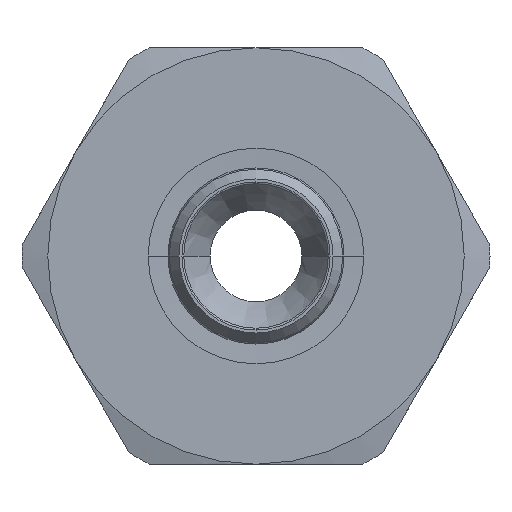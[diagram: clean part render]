
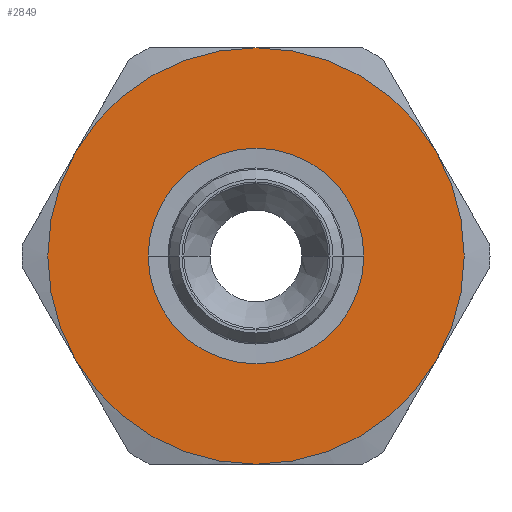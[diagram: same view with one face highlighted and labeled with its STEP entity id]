
A CAD part, left-side view. The second image highlights one B-rep face of the part: STEP entity #2849.
In plain terms, the highlighted planar face has unit normal (-1, 0, 0) as drawn and (0, 0, 1) by its records, which use the part's own axes.
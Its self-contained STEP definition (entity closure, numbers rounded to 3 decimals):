
#1176=CARTESIAN_POINT('',(0.,-12.95,6.));
#1177=VERTEX_POINT('',#1176);
#1193=CARTESIAN_POINT('',(0.,12.95,6.0));
#1194=VERTEX_POINT('',#1193);
#1201=CARTESIAN_POINT('',(0.,0.,6.0));
#1202=DIRECTION('',(0.0,0.0,-1.0));
#1203=DIRECTION('',(0.0,-1.0,0.0));
#1204=AXIS2_PLACEMENT_3D('',#1201,#1202,#1203);
#1205=CIRCLE('',#1204,12.95);
#1206=EDGE_CURVE('',#1177,#1194,#1205,.T.);
#1663=CARTESIAN_POINT('',(0.,0.,6.0));
#1664=DIRECTION('',(0.0,0.0,-1.0));
#1665=DIRECTION('',(0.0,-1.0,0.0));
#1666=AXIS2_PLACEMENT_3D('',#1663,#1664,#1665);
#1667=CIRCLE('',#1666,12.95);
#1668=EDGE_CURVE('',#1194,#1177,#1667,.T.);
#2222=CARTESIAN_POINT('',(12.5,-21.651,6.));
#2223=VERTEX_POINT('',#2222);
#2237=CARTESIAN_POINT('',(-12.5,-21.651,6.));
#2238=VERTEX_POINT('',#2237);
#2239=CARTESIAN_POINT('',(0.,0.0,6.0));
#2240=DIRECTION('',(0.0,0.0,1.0));
#2241=DIRECTION('',(1.0,0.0,0.0));
#2242=AXIS2_PLACEMENT_3D('',#2239,#2240,#2241);
#2243=CIRCLE('',#2242,25.);
#2244=EDGE_CURVE('',#2238,#2223,#2243,.T.);
#2322=CARTESIAN_POINT('',(-25.0,0.,6.));
#2323=VERTEX_POINT('',#2322);
#2324=CARTESIAN_POINT('',(0.,0.0,6.0));
#2325=DIRECTION('',(0.0,0.0,1.0));
#2326=DIRECTION('',(1.0,0.0,0.0));
#2327=AXIS2_PLACEMENT_3D('',#2324,#2325,#2326);
#2328=CIRCLE('',#2327,25.);
#2329=EDGE_CURVE('',#2323,#2238,#2328,.T.);
#2406=CARTESIAN_POINT('',(-12.5,21.651,6.));
#2407=VERTEX_POINT('',#2406);
#2408=CARTESIAN_POINT('',(0.,0.0,6.0));
#2409=DIRECTION('',(0.0,0.0,1.0));
#2410=DIRECTION('',(1.0,0.0,0.0));
#2411=AXIS2_PLACEMENT_3D('',#2408,#2409,#2410);
#2412=CIRCLE('',#2411,25.);
#2413=EDGE_CURVE('',#2407,#2323,#2412,.T.);
#2490=CARTESIAN_POINT('',(12.5,21.651,6.));
#2491=VERTEX_POINT('',#2490);
#2492=CARTESIAN_POINT('',(0.,0.0,6.0));
#2493=DIRECTION('',(0.0,0.0,1.0));
#2494=DIRECTION('',(1.0,0.0,0.0));
#2495=AXIS2_PLACEMENT_3D('',#2492,#2493,#2494);
#2496=CIRCLE('',#2495,25.);
#2497=EDGE_CURVE('',#2491,#2407,#2496,.T.);
#2575=CARTESIAN_POINT('',(25.0,0.0,6.));
#2576=VERTEX_POINT('',#2575);
#2577=CARTESIAN_POINT('',(0.,0.0,6.0));
#2578=DIRECTION('',(0.0,0.0,1.0));
#2579=DIRECTION('',(1.0,0.0,0.0));
#2580=AXIS2_PLACEMENT_3D('',#2577,#2578,#2579);
#2581=CIRCLE('',#2580,25.);
#2582=EDGE_CURVE('',#2576,#2491,#2581,.T.);
#2659=CARTESIAN_POINT('',(0.,0.0,6.0));
#2660=DIRECTION('',(0.0,0.0,1.0));
#2661=DIRECTION('',(1.0,0.0,0.0));
#2662=AXIS2_PLACEMENT_3D('',#2659,#2660,#2661);
#2663=CIRCLE('',#2662,25.);
#2664=EDGE_CURVE('',#2223,#2576,#2663,.T.);
#2832=CARTESIAN_POINT('',(0.,0.,6.0));
#2833=DIRECTION('',(0.0,0.0,1.0));
#2834=DIRECTION('',(1.0,0.0,0.0));
#2835=AXIS2_PLACEMENT_3D('',#2832,#2833,#2834);
#2836=PLANE('',#2835);
#2837=ORIENTED_EDGE('',*,*,#2664,.T.);
#2838=ORIENTED_EDGE('',*,*,#2582,.T.);
#2839=ORIENTED_EDGE('',*,*,#2497,.T.);
#2840=ORIENTED_EDGE('',*,*,#2413,.T.);
#2841=ORIENTED_EDGE('',*,*,#2329,.T.);
#2842=ORIENTED_EDGE('',*,*,#2244,.T.);
#2843=EDGE_LOOP('',(#2837,#2838,#2839,#2840,#2841,#2842));
#2844=FACE_OUTER_BOUND('',#2843,.T.);
#2845=ORIENTED_EDGE('',*,*,#1206,.T.);
#2846=ORIENTED_EDGE('',*,*,#1668,.T.);
#2847=EDGE_LOOP('',(#2845,#2846));
#2848=FACE_BOUND('',#2847,.T.);
#2849=ADVANCED_FACE('',(#2844,#2848),#2836,.T.);
